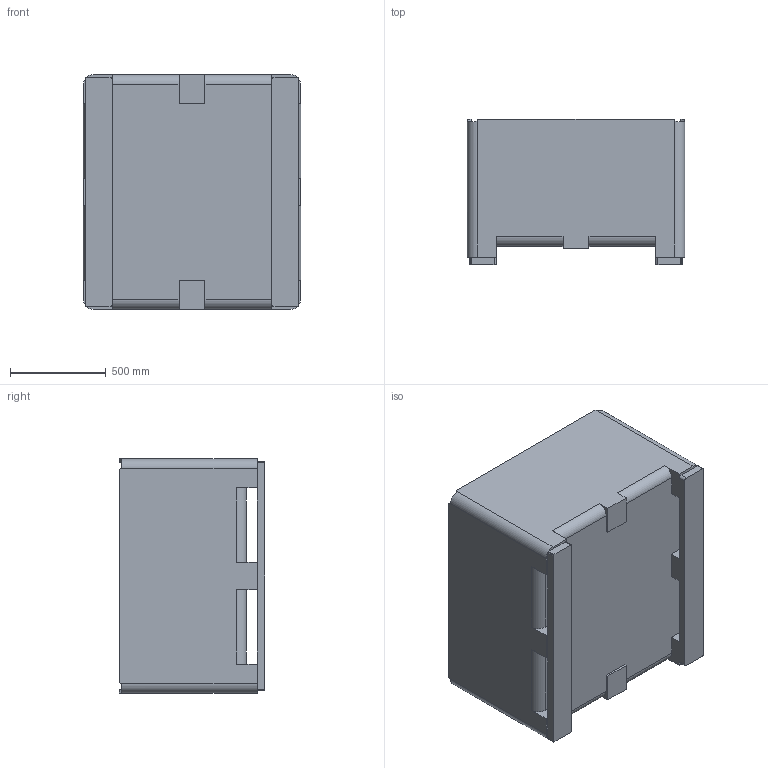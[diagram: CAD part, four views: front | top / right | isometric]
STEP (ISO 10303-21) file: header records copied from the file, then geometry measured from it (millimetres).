
FILE_DESCRIPTION (( 'STEP AP214' ), '1' );
FILE_NAME ('32FV Block Model.STEP', '2013-06-03T14:46:01', ( 'Bryant Conder' ), ( '' ), 'SwSTEP 2.0', 'SolidWorks 2013', '' );
FILE_SCHEMA (( 'AUTOMOTIVE_DESIGN' ));
Length unit declared in the file: inch
Products named in the file (1): 32FV Block Model
Bounding box: 1136.65 x 758.83 x 1225.55 mm (x, y, z)
Volume: 195979385.4 mm3; surface area: 9208838 mm2
Topology: 1 solids, 1 shells, 99 faces, 304 edges, 200 vertices
Faces by surface type: plane 67, cylinder 32
Entity records: 3594 total; most frequent: CARTESIAN_POINT 820, ORIENTED_EDGE 608, DIRECTION 544, EDGE_CURVE 304, VECTOR 224, LINE 224, VERTEX_POINT 200, AXIS2_PLACEMENT_3D 160
